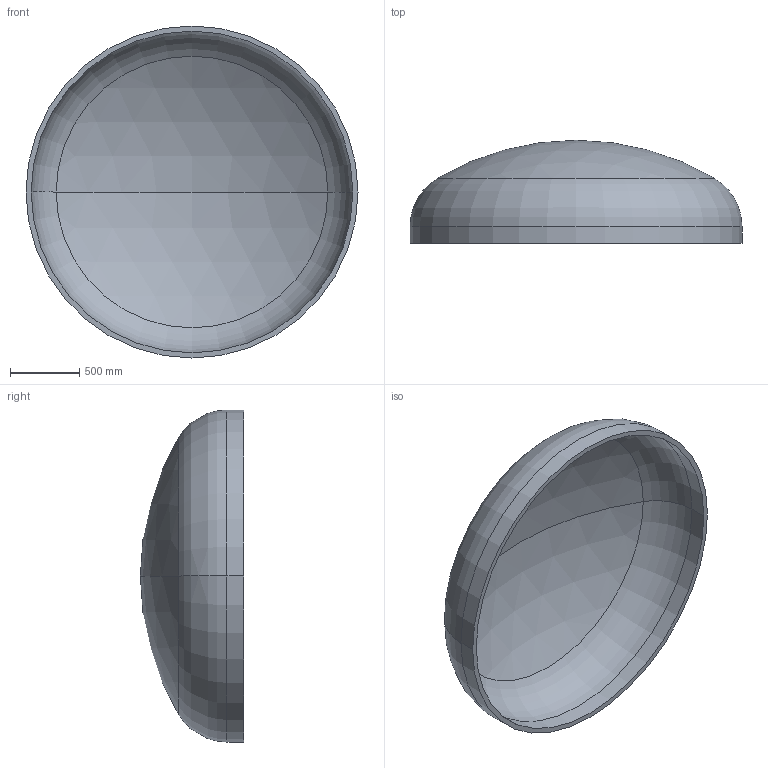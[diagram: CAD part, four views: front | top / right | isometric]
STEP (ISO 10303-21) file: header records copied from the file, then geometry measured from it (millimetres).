
FILE_DESCRIPTION (( 'STEP AP203' ), '1' );
FILE_NAME ('DIN 28013 Korbbogenform_-_Boden DIN 28013 - 2400 x 120 - I - s=37.step', '2016-07-01T15:19:21', ( '' ), ( '' ), 'SwSTEP 2.0', 'SolidWorks 2013', '' );
FILE_SCHEMA (( 'CONFIG_CONTROL_DESIGN' ));
Length unit declared in the file: millimetre
Products named in the file (1): DIN 28013 Korbbogenform_-_Boden DIN 28013 - 2400 x 120 - I - s=37
Bounding box: 2400 x 745.22 x 2400 mm (x, y, z)
Volume: 260162741.3 mm3; surface area: 14340385.9 mm2
Topology: 1 solids, 1 shells, 13 faces, 24 edges, 14 vertices
Faces by surface type: torus 4, cylinder 4, sphere 4, plane 1
Entity records: 407 total; most frequent: DIRECTION 72, CARTESIAN_POINT 52, ORIENTED_EDGE 48, AXIS2_PLACEMENT_3D 34, EDGE_CURVE 24, CIRCLE 20, EDGE_LOOP 14, VERTEX_POINT 14
